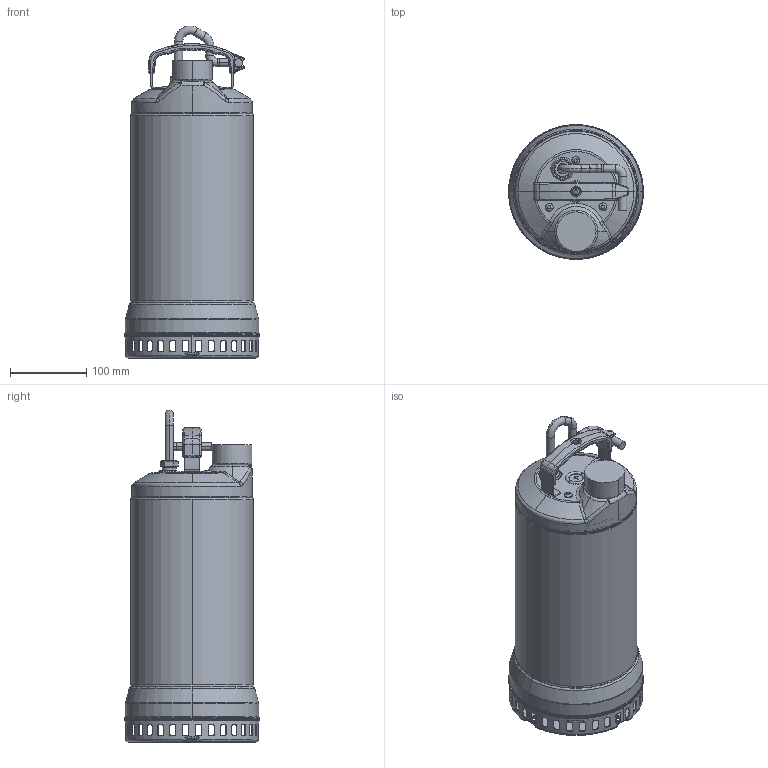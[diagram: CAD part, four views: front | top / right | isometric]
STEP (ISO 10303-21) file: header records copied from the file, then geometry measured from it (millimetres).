
FILE_DESCRIPTION (( 'STEP AP214' ), '1' );
FILE_NAME ('XD-10.15.20(3D¹ê¾÷).STEP', '2024-01-12T07:06:23', ( '' ), ( '' ), 'SwSTEP 2.0', 'SolidWorks 2018', '' );
FILE_SCHEMA (( 'AUTOMOTIVE_DESIGN' ));
Length unit declared in the file: millimetre
Products named in the file (22): XD-07組立(3D)(2)^XD-10.15.20組合件(3D實機)-1; Product-4^XD-07組立(3D)(2)_XD-10.15.20組合件(3D實機)-1; XD-07泵浦蓋(實); Product-6^XD-07組立(3D)(2)_XD-10.15.20組合件(3D實機)-1; Product-35^XD-07組立(3D)(2)_XD-10.15.20組合件(3D實機); XD-07泵室(實); XD-07電纜示意圖-2; Product-1^XD-07組立(3D)(2)_XD-10.15.20組合件(3D實機)-1; Product-36^XD-07組立(3D)(2)_XD-10.15.20組合件(3D實機)-1; XD-10.15.20(3D實機); Product-37^XD-07組立(3D)(2)_XD-10.15.20組合件(3D實機)-1; Product-38^XD-07組立(3D)(2)_XD-10.15.20組合件(3D實機)-1; XD-07²Õ¥ß(3D)-prt82^XD-07²Õ¥ß(3D)(2)_XD-10.15.20²Õ¦X¥ó(3D¹ê¾÷); Product^XD-07組立(3D)(2)_XD-10.15.20組合件(3D實機)-1; XD-07²Õ¥ß(3D)-prt82^XD-07²Õ¥ß(3D)(2)_XD-10.15.20²Õ¦X¥ó(3D¹ê¾÷)-1; XD-07組立(3D)(2)^XD-10.15.20組合件(3D實機); XD-10.15.20組合件(3D實機)-1; XD10 外筒(實); XD-07-電纜組裝示意圖; XD-07電纜線-示意圖; Product-0^XD-07組立(3D)(2)_XD-10.15.20組合件(3D實機)-1; Product-61^XD-07組立(3D)(2)_XD-10.15.20組合件(3D實機)
Assembly tree (19 placements, depth 4):
  XD-10.15.20(3D實機)
    XD-07組立(3D)(2)^XD-10.15.20組合件(3D實機)
      XD-07泵室(實)
      Product-35^XD-07組立(3D)(2)_XD-10.15.20組合件(3D實機)
      Product-61^XD-07組立(3D)(2)_XD-10.15.20組合件(3D實機)
    XD10 外筒(實)
    XD-10.15.20組合件(3D實機)-1
      XD-07組立(3D)(2)^XD-10.15.20組合件(3D實機)-1
        Product^XD-07組立(3D)(2)_XD-10.15.20組合件(3D實機)-1
        Product-0^XD-07組立(3D)(2)_XD-10.15.20組合件(3D實機)-1
        Product-1^XD-07組立(3D)(2)_XD-10.15.20組合件(3D實機)-1
        Product-4^XD-07組立(3D)(2)_XD-10.15.20組合件(3D實機)-1
        Product-6^XD-07組立(3D)(2)_XD-10.15.20組合件(3D實機)-1
        Product-36^XD-07組立(3D)(2)_XD-10.15.20組合件(3D實機)-1
        Product-37^XD-07組立(3D)(2)_XD-10.15.20組合件(3D實機)-1
        Product-38^XD-07組立(3D)(2)_XD-10.15.20組合件(3D實機)-1
        XD-07泵浦蓋(實)
      XD-07-電纜組裝示意圖
        XD-07電纜線-示意圖
        XD-07電纜示意圖-2
  XD-07²Õ¥ß(3D)-prt82^XD-07²Õ¥ß(3D)(2)_XD-10.15.20²Õ¦X¥ó(3D¹ê¾÷)
  XD-07²Õ¥ß(3D)-prt82^XD-07²Õ¥ß(3D)(2)_XD-10.15.20²Õ¦X¥ó(3D¹ê¾÷)-1
Bounding box: 177 x 177 x 436.02 mm (x, y, z)
Volume: 7355274.8 mm3; surface area: 465429 mm2
Topology: 15 solids, 15 shells, 1221 faces, 3187 edges, 1993 vertices
Faces by surface type: cylinder 510, plane 304, cone 138, torus 132, bspline 107, sphere 30
Entity records: 48293 total; most frequent: CARTESIAN_POINT 19279, ORIENTED_EDGE 6338, DIRECTION 5365, EDGE_CURVE 3169, AXIS2_PLACEMENT_3D 2116, VERTEX_POINT 1993, EDGE_LOOP 1316, FACE_OUTER_BOUND 1221
